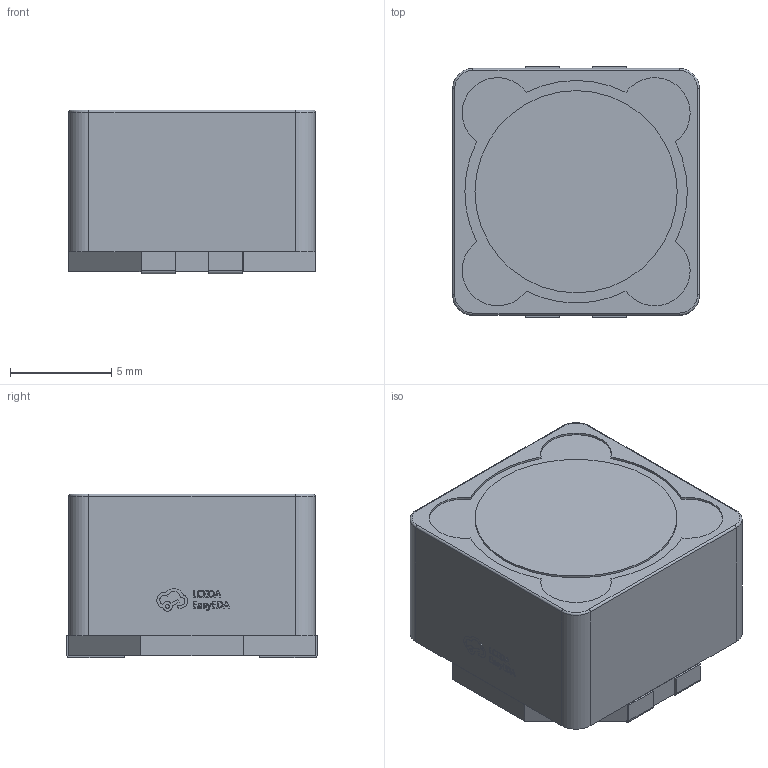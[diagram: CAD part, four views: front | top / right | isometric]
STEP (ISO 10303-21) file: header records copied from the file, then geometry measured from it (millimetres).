
FILE_DESCRIPTION(('Designed by EasyEDA Pro'),'2;1');
FILE_NAME('Open CASCADE Shape Model','2025-11-07T11:28:30',('Author'),( 'Open CASCADE'),'Open CASCADE STEP processor 7.6','Open CASCADE 7.8' ,'Unknown');
FILE_SCHEMA(('AUTOMOTIVE_DESIGN_CC2 { 1 2 10303 214 -1 1 5 4 }'));
Length unit declared in the file: millimetre
Products named in the file (4): PCBModel; xvV2-U1; IND-SMD_4P-L12.2-W12.2; COMPOUND
Assembly tree (3 placements, depth 4):
  PCBModel
    xvV2-U1
      IND-SMD_4P-L12.2-W12.2
        COMPOUND
Bounding box: 12.21 x 12.4 x 8.1 mm (x, y, z)
Volume: 1158 mm3; surface area: 974.6 mm2
Topology: 6 solids, 6 shells, 307 faces, 814 edges, 540 vertices
Faces by surface type: plane 176, bspline 98, cylinder 29, torus 4
Entity records: 12911 total; most frequent: CARTESIAN_POINT 2971, ORIENTED_EDGE 1628, DIRECTION 1102, EDGE_CURVE 814, LINE 552, VECTOR 552, VERTEX_POINT 540, FACE_BOUND 328
